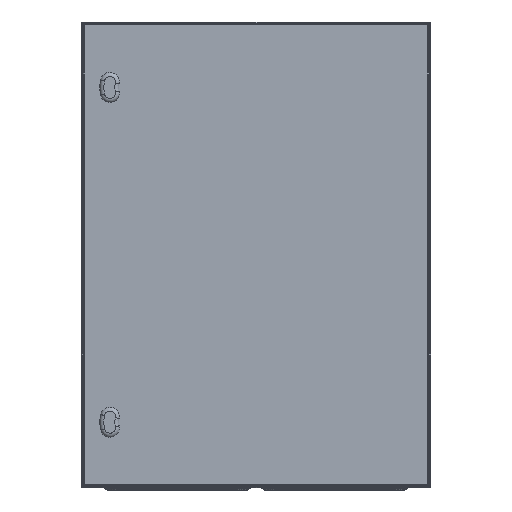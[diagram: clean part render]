
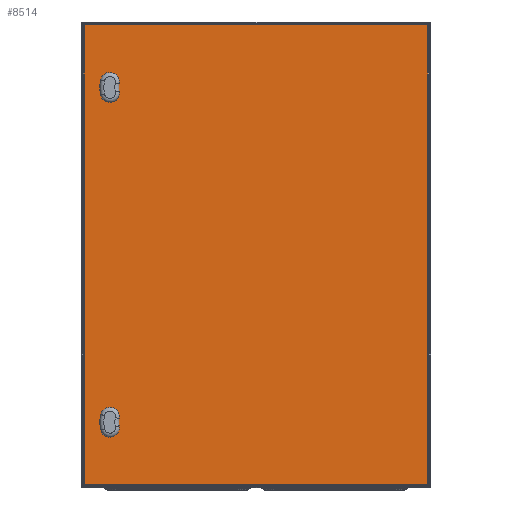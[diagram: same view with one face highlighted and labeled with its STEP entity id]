
A CAD part, front view. The second image highlights one B-rep face of the part: STEP entity #8514.
In plain terms, the highlighted planar face has unit normal (0, -1, 0).
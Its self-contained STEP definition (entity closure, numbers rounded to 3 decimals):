
#588=LINE('',#13724,#1108);
#589=LINE('',#13727,#1109);
#590=LINE('',#13729,#1110);
#591=LINE('',#13731,#1111);
#1108=VECTOR('',#10971,1000.);
#1109=VECTOR('',#10972,1000.);
#1110=VECTOR('',#10973,1000.);
#1111=VECTOR('',#10974,1000.);
#2110=ORIENTED_EDGE('',*,*,#4050,.F.);
#2111=ORIENTED_EDGE('',*,*,#4051,.T.);
#2112=ORIENTED_EDGE('',*,*,#4052,.T.);
#2113=ORIENTED_EDGE('',*,*,#4053,.T.);
#2114=ORIENTED_EDGE('',*,*,#4054,.F.);
#2115=ORIENTED_EDGE('',*,*,#4055,.T.);
#2116=ORIENTED_EDGE('',*,*,#4056,.T.);
#2117=ORIENTED_EDGE('',*,*,#4057,.T.);
#2118=ORIENTED_EDGE('',*,*,#4058,.F.);
#2119=ORIENTED_EDGE('',*,*,#4059,.F.);
#2120=ORIENTED_EDGE('',*,*,#4060,.T.);
#2121=ORIENTED_EDGE('',*,*,#4061,.T.);
#4050=EDGE_CURVE('',#5088,#5089,#5786,.T.);
#4051=EDGE_CURVE('',#5088,#5090,#5787,.T.);
#4052=EDGE_CURVE('',#5090,#5091,#5788,.T.);
#4053=EDGE_CURVE('',#5091,#5089,#5789,.T.);
#4054=EDGE_CURVE('',#5092,#5093,#5790,.T.);
#4055=EDGE_CURVE('',#5092,#5094,#5791,.T.);
#4056=EDGE_CURVE('',#5094,#5095,#5792,.T.);
#4057=EDGE_CURVE('',#5095,#5093,#5793,.T.);
#4058=EDGE_CURVE('',#5096,#5097,#588,.F.);
#4059=EDGE_CURVE('',#5098,#5096,#589,.T.);
#4060=EDGE_CURVE('',#5098,#5099,#590,.F.);
#4061=EDGE_CURVE('',#5099,#5097,#591,.T.);
#5088=VERTEX_POINT('',#13709);
#5089=VERTEX_POINT('',#13710);
#5090=VERTEX_POINT('',#13712);
#5091=VERTEX_POINT('',#13714);
#5092=VERTEX_POINT('',#13717);
#5093=VERTEX_POINT('',#13718);
#5094=VERTEX_POINT('',#13720);
#5095=VERTEX_POINT('',#13722);
#5096=VERTEX_POINT('',#13725);
#5097=VERTEX_POINT('',#13726);
#5098=VERTEX_POINT('',#13728);
#5099=VERTEX_POINT('',#13730);
#5786=CIRCLE('',#9292,34.3);
#5787=CIRCLE('',#9293,16.2);
#5788=CIRCLE('',#9294,60.7);
#5789=CIRCLE('',#9295,16.2);
#5790=CIRCLE('',#9296,34.3);
#5791=CIRCLE('',#9297,16.2);
#5792=CIRCLE('',#9298,60.7);
#5793=CIRCLE('',#9299,16.2);
#6471=EDGE_LOOP('',(#2110,#2111,#2112,#2113));
#6472=EDGE_LOOP('',(#2114,#2115,#2116,#2117));
#6473=EDGE_LOOP('',(#2118,#2119,#2120,#2121));
#7447=FACE_BOUND('',#6471,.T.);
#7448=FACE_BOUND('',#6472,.T.);
#7449=FACE_BOUND('',#6473,.T.);
#8208=PLANE('',#9291);
#8514=ADVANCED_FACE('',(#7447,#7448,#7449),#8208,.F.);
#9291=AXIS2_PLACEMENT_3D('',#13707,#10953,#10954);
#9292=AXIS2_PLACEMENT_3D('',#13708,#10955,#10956);
#9293=AXIS2_PLACEMENT_3D('',#13711,#10957,#10958);
#9294=AXIS2_PLACEMENT_3D('',#13713,#10959,#10960);
#9295=AXIS2_PLACEMENT_3D('',#13715,#10961,#10962);
#9296=AXIS2_PLACEMENT_3D('',#13716,#10963,#10964);
#9297=AXIS2_PLACEMENT_3D('',#13719,#10965,#10966);
#9298=AXIS2_PLACEMENT_3D('',#13721,#10967,#10968);
#9299=AXIS2_PLACEMENT_3D('',#13723,#10969,#10970);
#10953=DIRECTION('',(0.,1.,0.));
#10954=DIRECTION('',(0.,0.,1.));
#10955=DIRECTION('',(0.,1.,0.));
#10956=DIRECTION('',(1.,0.,0.));
#10957=DIRECTION('',(0.,1.,0.));
#10958=DIRECTION('',(1.,0.,0.));
#10959=DIRECTION('',(0.,1.,0.));
#10960=DIRECTION('',(1.,0.,0.));
#10961=DIRECTION('',(0.,1.,0.));
#10962=DIRECTION('',(1.,0.,0.));
#10963=DIRECTION('',(0.,1.,0.));
#10964=DIRECTION('',(1.,0.,0.));
#10965=DIRECTION('',(0.,1.,0.));
#10966=DIRECTION('',(1.,0.,0.));
#10967=DIRECTION('',(0.,1.,0.));
#10968=DIRECTION('',(1.,0.,0.));
#10969=DIRECTION('',(0.,1.,0.));
#10970=DIRECTION('',(1.,0.,0.));
#10971=DIRECTION('',(0.,0.,-1.));
#10972=DIRECTION('',(-1.,0.,0.));
#10973=DIRECTION('',(0.,0.,-1.));
#10974=DIRECTION('',(-1.,0.,0.));
#13707=CARTESIAN_POINT('',(0.,-16.5,0.));
#13708=CARTESIAN_POINT('',(-201.402,-16.5,-287.5));
#13709=CARTESIAN_POINT('',(-235.089,-16.5,-293.952));
#13710=CARTESIAN_POINT('',(-235.089,-16.5,-281.048));
#13711=CARTESIAN_POINT('',(-251.,-16.5,-297.));
#13712=CARTESIAN_POINT('',(-266.827,-16.5,-300.458));
#13713=CARTESIAN_POINT('',(-207.526,-16.5,-287.5));
#13714=CARTESIAN_POINT('',(-266.827,-16.5,-274.542));
#13715=CARTESIAN_POINT('',(-251.,-16.5,-278.));
#13716=CARTESIAN_POINT('',(-201.402,-16.5,287.5));
#13717=CARTESIAN_POINT('',(-235.089,-16.5,281.048));
#13718=CARTESIAN_POINT('',(-235.089,-16.5,293.952));
#13719=CARTESIAN_POINT('',(-251.,-16.5,278.));
#13720=CARTESIAN_POINT('',(-266.827,-16.5,274.542));
#13721=CARTESIAN_POINT('',(-207.526,-16.5,287.5));
#13722=CARTESIAN_POINT('',(-266.827,-16.5,300.458));
#13723=CARTESIAN_POINT('',(-251.,-16.5,297.));
#13724=CARTESIAN_POINT('',(-295.,-16.5,400.));
#13725=CARTESIAN_POINT('',(-295.,-16.5,-395.));
#13726=CARTESIAN_POINT('',(-295.,-16.5,395.));
#13727=CARTESIAN_POINT('',(300.,-16.5,-395.));
#13728=CARTESIAN_POINT('',(295.,-16.5,-395.));
#13729=CARTESIAN_POINT('',(295.,-16.5,400.));
#13730=CARTESIAN_POINT('',(295.,-16.5,395.));
#13731=CARTESIAN_POINT('',(300.,-16.5,395.));
